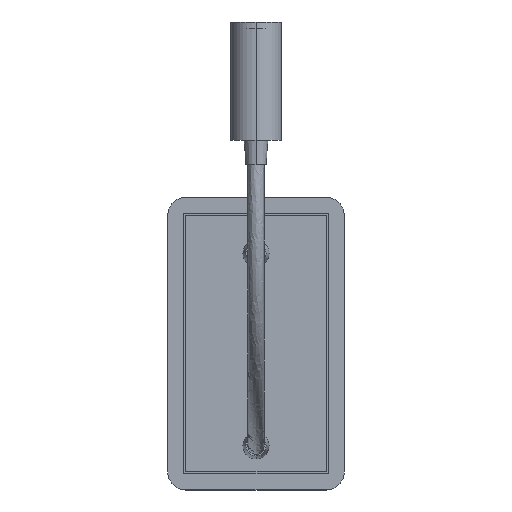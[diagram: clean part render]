
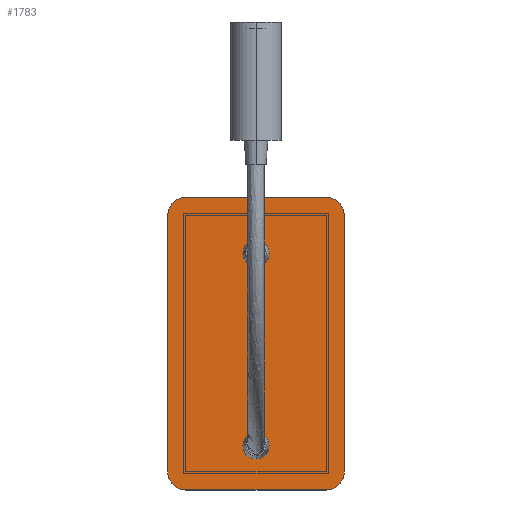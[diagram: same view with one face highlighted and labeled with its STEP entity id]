
A CAD part, top view. The second image highlights one B-rep face of the part: STEP entity #1783.
In plain terms, the highlighted planar face has unit normal (0, 0, 1).
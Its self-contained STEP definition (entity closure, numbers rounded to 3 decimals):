
#51=CIRCLE('',#1903,8.996);
#53=CIRCLE('',#1907,8.996);
#55=CIRCLE('',#1911,8.996);
#57=CIRCLE('',#1915,8.996);
#177=PLANE('',#1919);
#267=FACE_OUTER_BOUND('',#387,.T.);
#387=EDGE_LOOP('',(#1456,#1457,#1458,#1459,#1460,#1461,#1462,#1463));
#556=LINE('',#2750,#735);
#560=LINE('',#2762,#739);
#564=LINE('',#2774,#743);
#568=LINE('',#2785,#747);
#735=VECTOR('',#2223,304.8);
#739=VECTOR('',#2235,304.8);
#743=VECTOR('',#2247,304.8);
#747=VECTOR('',#2259,304.8);
#880=VERTEX_POINT('',#2740);
#881=VERTEX_POINT('',#2741);
#884=VERTEX_POINT('',#2749);
#886=VERTEX_POINT('',#2755);
#888=VERTEX_POINT('',#2761);
#890=VERTEX_POINT('',#2767);
#892=VERTEX_POINT('',#2773);
#894=VERTEX_POINT('',#2779);
#1069=EDGE_CURVE('',#880,#881,#51,.T.);
#1073=EDGE_CURVE('',#884,#880,#556,.T.);
#1076=EDGE_CURVE('',#886,#884,#53,.T.);
#1079=EDGE_CURVE('',#888,#886,#560,.T.);
#1082=EDGE_CURVE('',#890,#888,#55,.T.);
#1085=EDGE_CURVE('',#892,#890,#564,.T.);
#1088=EDGE_CURVE('',#894,#892,#57,.T.);
#1091=EDGE_CURVE('',#881,#894,#568,.T.);
#1456=ORIENTED_EDGE('',*,*,#1091,.T.);
#1457=ORIENTED_EDGE('',*,*,#1088,.T.);
#1458=ORIENTED_EDGE('',*,*,#1085,.T.);
#1459=ORIENTED_EDGE('',*,*,#1082,.T.);
#1460=ORIENTED_EDGE('',*,*,#1079,.T.);
#1461=ORIENTED_EDGE('',*,*,#1076,.T.);
#1462=ORIENTED_EDGE('',*,*,#1073,.T.);
#1463=ORIENTED_EDGE('',*,*,#1069,.T.);
#1783=ADVANCED_FACE('',(#267),#177,.T.);
#1903=AXIS2_PLACEMENT_3D('',#2742,#2215,#2216);
#1907=AXIS2_PLACEMENT_3D('',#2756,#2228,#2229);
#1911=AXIS2_PLACEMENT_3D('',#2768,#2240,#2241);
#1915=AXIS2_PLACEMENT_3D('',#2780,#2252,#2253);
#1919=AXIS2_PLACEMENT_3D('',#2788,#2263,#2264);
#2215=DIRECTION('center_axis',(0.,0.,1.));
#2216=DIRECTION('ref_axis',(-1.,0.,0.));
#2223=DIRECTION('',(0.,1.,0.));
#2228=DIRECTION('center_axis',(0.,0.,1.));
#2229=DIRECTION('ref_axis',(-1.,0.,0.));
#2235=DIRECTION('',(1.,0.,0.));
#2240=DIRECTION('center_axis',(0.,0.,1.));
#2241=DIRECTION('ref_axis',(1.,0.,0.));
#2247=DIRECTION('',(0.,-1.,0.));
#2252=DIRECTION('center_axis',(0.,0.,1.));
#2253=DIRECTION('ref_axis',(1.,0.,0.));
#2259=DIRECTION('',(-1.,0.,0.));
#2263=DIRECTION('center_axis',(0.,0.,1.));
#2264=DIRECTION('ref_axis',(-1.,0.,0.));
#2740=CARTESIAN_POINT('',(44.,64.004,35.));
#2741=CARTESIAN_POINT('',(35.004,73.,35.));
#2742=CARTESIAN_POINT('Origin',(35.004,64.004,35.));
#2749=CARTESIAN_POINT('',(44.,-64.004,35.));
#2750=CARTESIAN_POINT('',(44.,-64.004,35.));
#2755=CARTESIAN_POINT('',(35.004,-73.,35.));
#2756=CARTESIAN_POINT('Origin',(35.004,-64.004,35.));
#2761=CARTESIAN_POINT('',(-35.004,-73.,35.));
#2762=CARTESIAN_POINT('',(-35.004,-73.,35.));
#2767=CARTESIAN_POINT('',(-44.,-64.004,35.));
#2768=CARTESIAN_POINT('Origin',(-35.004,-64.004,35.));
#2773=CARTESIAN_POINT('',(-44.,64.004,35.));
#2774=CARTESIAN_POINT('',(-44.,64.004,35.));
#2779=CARTESIAN_POINT('',(-35.004,73.,35.));
#2780=CARTESIAN_POINT('Origin',(-35.004,64.004,35.));
#2785=CARTESIAN_POINT('',(35.004,73.,35.));
#2788=CARTESIAN_POINT('Origin',(-41.,73.,35.));
